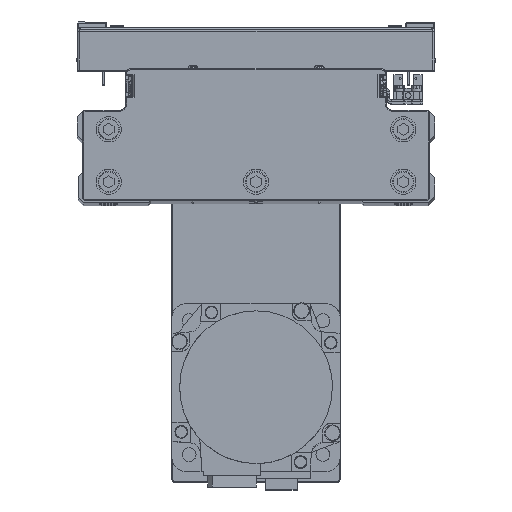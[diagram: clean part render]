
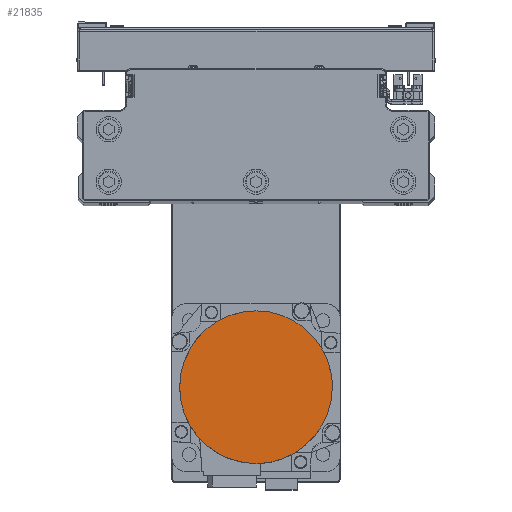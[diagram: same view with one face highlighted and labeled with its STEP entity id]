
A CAD part, top view. The second image highlights one B-rep face of the part: STEP entity #21835.
In plain terms, the highlighted planar face has unit normal (0, 0, 1) as drawn and (0, 0, -1) by its records, which use the part's own axes.
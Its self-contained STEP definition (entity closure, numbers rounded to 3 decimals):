
#214 = B_SPLINE_CURVE_WITH_KNOTS ( 'NONE', 3,
 ( #22865, #36593, #5773, #19481, #33217, #2405, #16130, #29834, #43584, #12746, #26459, #40209, #9372, #23077, #36817, #5993, #19699, #33434 ),
 .UNSPECIFIED., .F., .F.,
 ( 4, 2, 2, 2, 2, 2, 2, 2, 4 ),
 ( 0., 0.125, 0.25, 0.375, 0.5, 0.625, 0.75, 0.875, 1. ),
 .UNSPECIFIED. ) ;
#2102 = CARTESIAN_POINT ( 'NONE',  ( -18.192, -31.502, -122.2 ) ) ;
#2347 = B_SPLINE_CURVE_WITH_KNOTS ( 'NONE', 3,
 ( #29315, #43058, #12210, #25928, #39683, #8846, #22551, #36286, #5474, #19192, #32919, #2102, #15825, #29523, #43275, #12431, #26149, #39906 ),
 .UNSPECIFIED., .F., .F.,
 ( 4, 2, 2, 2, 2, 2, 2, 2, 4 ),
 ( 0., 0.125, 0.25, 0.375, 0.5, 0.625, 0.75, 0.875, 1. ),
 .UNSPECIFIED. ) ;
#2405 = CARTESIAN_POINT ( 'NONE',  ( -16.086, 32.628, -122.2 ) ) ;
#2656 = EDGE_CURVE ( 'NONE', #21712, #34732, #214, .T. ) ;
#3310 = DIRECTION ( 'NONE',  ( 1., 0., 0. ) ) ;
#3706 = ORIENTED_EDGE ( 'NONE', *, *, #31452, .F. ) ;
#3931 = CARTESIAN_POINT ( 'NONE',  ( 0., 0., -122.2 ) ) ;
#4984 = DIRECTION ( 'NONE',  ( -1., 0., 0. ) ) ;
#5474 = CARTESIAN_POINT ( 'NONE',  ( -27.348, -23.988, -122.2 ) ) ;
#5773 = CARTESIAN_POINT ( 'NONE',  ( -4.752, 36.066, -122.2 ) ) ;
#5993 = CARTESIAN_POINT ( 'NONE',  ( -36.066, 4.752, -122.2 ) ) ;
#6688 = PLANE ( 'NONE',  #18228 ) ;
#8846 = CARTESIAN_POINT ( 'NONE',  ( -32.628, -16.086, -122.2 ) ) ;
#9372 = CARTESIAN_POINT ( 'NONE',  ( -32.628, 16.086, -122.2 ) ) ;
#12210 = CARTESIAN_POINT ( 'NONE',  ( -36.066, -4.752, -122.2 ) ) ;
#12431 = CARTESIAN_POINT ( 'NONE',  ( -4.752, -36.066, -122.2 ) ) ;
#12686 = VERTEX_POINT ( 'NONE', #24473 ) ;
#12746 = CARTESIAN_POINT ( 'NONE',  ( -27.348, 23.988, -122.2 ) ) ;
#13986 = ORIENTED_EDGE ( 'NONE', *, *, #34161, .F. ) ;
#14856 = ORIENTED_EDGE ( 'NONE', *, *, #2656, .F. ) ;
#15825 = CARTESIAN_POINT ( 'NONE',  ( -16.086, -32.628, -122.2 ) ) ;
#16130 = CARTESIAN_POINT ( 'NONE',  ( -18.192, 31.502, -122.2 ) ) ;
#17652 = DIRECTION ( 'NONE',  ( 0., 0., 1. ) ) ;
#18228 = AXIS2_PLACEMENT_3D ( 'NONE', #20377, #34116, #3310 ) ;
#19192 = CARTESIAN_POINT ( 'NONE',  ( -23.988, -27.348, -122.2 ) ) ;
#19481 = CARTESIAN_POINT ( 'NONE',  ( -9.412, 35.139, -122.2 ) ) ;
#19699 = CARTESIAN_POINT ( 'NONE',  ( -36.3, 2.376, -122.2 ) ) ;
#20377 = CARTESIAN_POINT ( 'NONE',  ( 0., 0., -122.2 ) ) ;
#21405 = AXIS2_PLACEMENT_3D ( 'NONE', #3931, #17652, #31369 ) ;
#21712 = VERTEX_POINT ( 'NONE', #33246 ) ;
#21835 = ADVANCED_FACE ( 'NONE', ( #37507 ), #6688, .F. ) ;
#22073 = CARTESIAN_POINT ( 'NONE',  ( 0., 0., -122.2 ) ) ;
#22551 = CARTESIAN_POINT ( 'NONE',  ( -31.502, -18.192, -122.2 ) ) ;
#22865 = CARTESIAN_POINT ( 'NONE',  ( 0., 36.3, -122.2 ) ) ;
#23037 = VERTEX_POINT ( 'NONE', #25316 ) ;
#23077 = CARTESIAN_POINT ( 'NONE',  ( -34.446, 11.696, -122.2 ) ) ;
#24473 = CARTESIAN_POINT ( 'NONE',  ( 0., -36.3, -122.2 ) ) ;
#25316 = CARTESIAN_POINT ( 'NONE',  ( 36.3, 0., -122.2 ) ) ;
#25928 = CARTESIAN_POINT ( 'NONE',  ( -35.139, -9.412, -122.2 ) ) ;
#26149 = CARTESIAN_POINT ( 'NONE',  ( -2.376, -36.3, -122.2 ) ) ;
#26459 = CARTESIAN_POINT ( 'NONE',  ( -28.862, 22.143, -122.2 ) ) ;
#27283 = ORIENTED_EDGE ( 'NONE', *, *, #31661, .F. ) ;
#29315 = CARTESIAN_POINT ( 'NONE',  ( -36.3, 0., -122.2 ) ) ;
#29523 = CARTESIAN_POINT ( 'NONE',  ( -11.696, -34.446, -122.2 ) ) ;
#29834 = CARTESIAN_POINT ( 'NONE',  ( -22.143, 28.862, -122.2 ) ) ;
#31369 = DIRECTION ( 'NONE',  ( -1., 0., 0. ) ) ;
#31452 = EDGE_CURVE ( 'NONE', #23037, #21712, #40822, .T. ) ;
#31661 = EDGE_CURVE ( 'NONE', #34732, #12686, #2347, .T. ) ;
#32919 = CARTESIAN_POINT ( 'NONE',  ( -22.143, -28.862, -122.2 ) ) ;
#33217 = CARTESIAN_POINT ( 'NONE',  ( -11.696, 34.446, -122.2 ) ) ;
#33246 = CARTESIAN_POINT ( 'NONE',  ( 0., 36.3, -122.2 ) ) ;
#33434 = CARTESIAN_POINT ( 'NONE',  ( -36.3, 0., -122.2 ) ) ;
#33483 = CARTESIAN_POINT ( 'NONE',  ( -36.3, 0., -122.2 ) ) ;
#34116 = DIRECTION ( 'NONE',  ( 0., 0., 1. ) ) ;
#34161 = EDGE_CURVE ( 'NONE', #12686, #23037, #36566, .T. ) ;
#34732 = VERTEX_POINT ( 'NONE', #33483 ) ;
#35801 = DIRECTION ( 'NONE',  ( 0., 0., 1. ) ) ;
#36286 = CARTESIAN_POINT ( 'NONE',  ( -28.862, -22.143, -122.2 ) ) ;
#36566 = CIRCLE ( 'NONE', #42323, 36.3 ) ;
#36593 = CARTESIAN_POINT ( 'NONE',  ( -2.376, 36.3, -122.2 ) ) ;
#36817 = CARTESIAN_POINT ( 'NONE',  ( -35.139, 9.412, -122.2 ) ) ;
#37507 = FACE_OUTER_BOUND ( 'NONE', #38132, .T. ) ;
#38132 = EDGE_LOOP ( 'NONE', ( #13986, #27283, #14856, #3706 ) ) ;
#39683 = CARTESIAN_POINT ( 'NONE',  ( -34.446, -11.696, -122.2 ) ) ;
#39906 = CARTESIAN_POINT ( 'NONE',  ( 0., -36.3, -122.2 ) ) ;
#40209 = CARTESIAN_POINT ( 'NONE',  ( -31.502, 18.192, -122.2 ) ) ;
#40822 = CIRCLE ( 'NONE', #21405, 36.3 ) ;
#42323 = AXIS2_PLACEMENT_3D ( 'NONE', #22073, #35801, #4984 ) ;
#43058 = CARTESIAN_POINT ( 'NONE',  ( -36.3, -2.376, -122.2 ) ) ;
#43275 = CARTESIAN_POINT ( 'NONE',  ( -9.412, -35.139, -122.2 ) ) ;
#43584 = CARTESIAN_POINT ( 'NONE',  ( -23.988, 27.348, -122.2 ) ) ;
